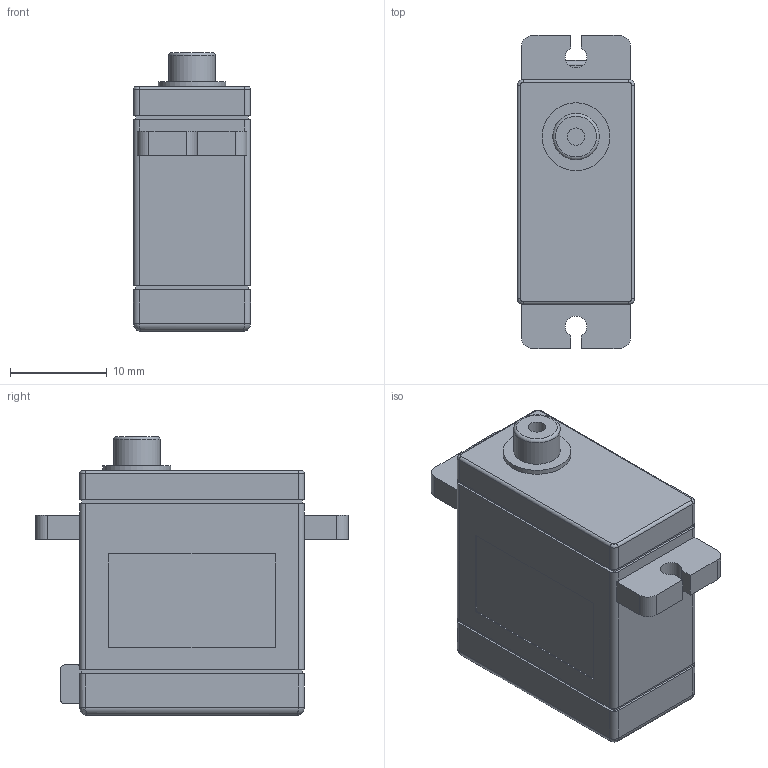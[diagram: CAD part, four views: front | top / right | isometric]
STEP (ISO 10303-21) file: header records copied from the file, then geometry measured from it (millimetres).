
FILE_DESCRIPTION(('Open CASCADE Model'),'2;1');
FILE_NAME('Open CASCADE Shape Model','2026-11-01T16:33:57',('Author'),( 'Open CASCADE'),'Open CASCADE STEP processor 8.0','build123d', 'Unknown');
FILE_SCHEMA(('AUTOMOTIVE_DESIGN { 1 0 10303 214 1 1 1 1 }'));
Length unit declared in the file: millimetre
Products named in the file (2): =>[0:1:1:2]; SOLID
Assembly tree (1 placements, depth 2):
  =>[0:1:1:2]
    SOLID
Bounding box: 12.1 x 32.3 x 28.75 mm (x, y, z)
Volume: 7328.6 mm3; surface area: 2722.6 mm2
Topology: 1 solids, 1 shells, 105 faces, 271 edges, 171 vertices
Faces by surface type: plane 63, cylinder 33, torus 5, bspline 4
Full cylindrical faces by diameter (mm): 1.8 x1, 4.8 x1, 7 x1
Entity records: 7121 total; most frequent: CARTESIAN_POINT 2031, DIRECTION 852, ORIENTED_EDGE 534, PCURVE 534, DEFINITIONAL_REPRESENTATION 534, LINE 469, VECTOR 469, EDGE_CURVE 267
